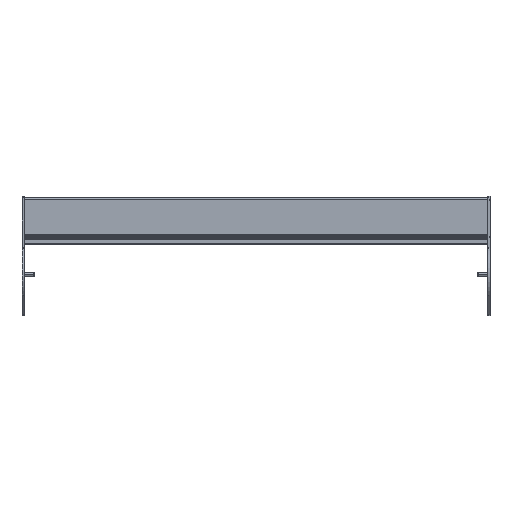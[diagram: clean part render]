
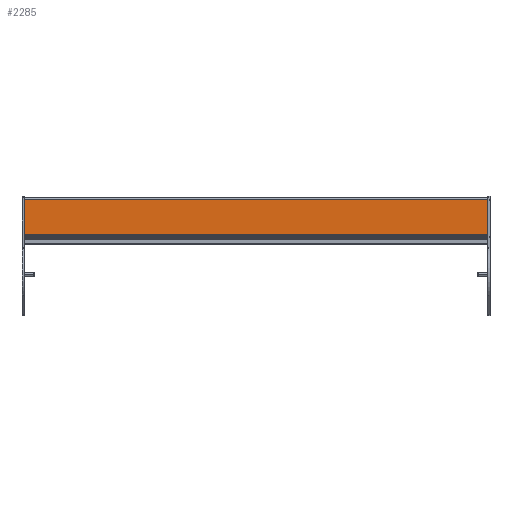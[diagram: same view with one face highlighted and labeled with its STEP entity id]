
A CAD part, top view. The second image highlights one B-rep face of the part: STEP entity #2285.
In plain terms, the highlighted planar face has unit normal (0, 0, 1) as drawn and (1, 0, 0) by its records, which use the part's own axes.
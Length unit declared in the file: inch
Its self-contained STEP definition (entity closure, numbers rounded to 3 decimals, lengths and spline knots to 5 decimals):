
#197=DIRECTION('',(0.,1.,0.));
#198=VECTOR('',#197,1.81445);
#199=CARTESIAN_POINT('',(0.683,-0.84545,-12.118));
#200=LINE('',#199,#198);
#303=DIRECTION('',(0.,1.,0.));
#304=VECTOR('',#303,1.81445);
#305=CARTESIAN_POINT('',(0.683,-0.84545,12.118));
#306=LINE('',#305,#304);
#646=DIRECTION('',(0.,0.,1.));
#647=VECTOR('',#646,24.236);
#648=CARTESIAN_POINT('',(0.683,0.969,-12.118));
#649=LINE('',#648,#647);
#659=DIRECTION('',(0.,0.,-1.));
#660=VECTOR('',#659,24.236);
#661=CARTESIAN_POINT('',(0.683,-0.84545,12.118));
#662=LINE('',#661,#660);
#1270=CARTESIAN_POINT('',(0.683,-0.84545,-12.118));
#1271=CARTESIAN_POINT('',(0.683,0.969,-12.118));
#1272=VERTEX_POINT('',#1270);
#1273=VERTEX_POINT('',#1271);
#1274=CARTESIAN_POINT('',(0.683,-0.84545,12.118));
#1275=CARTESIAN_POINT('',(0.683,0.969,12.118));
#1276=VERTEX_POINT('',#1274);
#1277=VERTEX_POINT('',#1275);
#2273=CARTESIAN_POINT('',(0.683,-0.86334,-12.118));
#2274=DIRECTION('',(1.,0.,0.));
#2275=DIRECTION('',(0.,1.,0.));
#2276=AXIS2_PLACEMENT_3D('',#2273,#2274,#2275);
#2277=PLANE('',#2276);
#2278=ORIENTED_EDGE('',*,*,#1631,.F.);
#2280=ORIENTED_EDGE('',*,*,#2279,.F.);
#2281=ORIENTED_EDGE('',*,*,#1734,.T.);
#2282=ORIENTED_EDGE('',*,*,#2266,.F.);
#2283=EDGE_LOOP('',(#2278,#2280,#2281,#2282));
#2284=FACE_OUTER_BOUND('',#2283,.F.);
#1631=EDGE_CURVE('',#1272,#1273,#200,.T.);
#1734=EDGE_CURVE('',#1276,#1277,#306,.T.);
#2266=EDGE_CURVE('',#1273,#1277,#649,.T.);
#2279=EDGE_CURVE('',#1276,#1272,#662,.T.);
#2285=ADVANCED_FACE('',(#2284),#2277,.T.);
